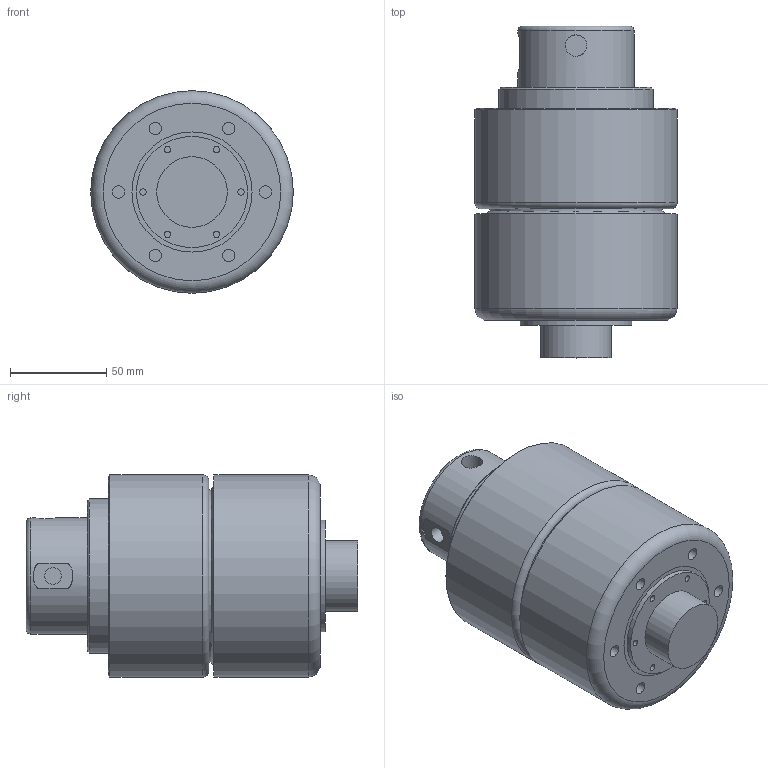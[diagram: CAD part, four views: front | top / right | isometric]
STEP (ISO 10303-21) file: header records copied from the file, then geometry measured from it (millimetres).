
FILE_DESCRIPTION (( 'STEP AP214' ), '1' );
FILE_NAME ('DBA030 TOP MOUNT.STEP', '2013-04-24T14:58:04', ( '' ), ( '' ), 'SwSTEP 2.0', 'SolidWorks 2012', '' );
FILE_SCHEMA (( 'AUTOMOTIVE_DESIGN' ));
Length unit declared in the file: inch
Products named in the file (1): DBA030 TOP MOUNT
Bounding box: 105.08 x 172.11 x 105.08 mm (x, y, z)
Volume: 1102854.4 mm3; surface area: 73482.2 mm2
Topology: 1 solids, 15 shells, 122 faces, 177 edges, 121 vertices
Faces by surface type: plane 66, cylinder 49, cone 4, torus 3
Full cylindrical faces by diameter (mm): 3.251 x18, 6.35 x6, 6.528 x14, 8.611 x1, 11.125 x1, 36.601 x1, 57.658 x1, 60.325 x1, 80.01 x1, 89.332 x1, 104.775 x1, 105.08 x1
Entity records: 3337 total; most frequent: CARTESIAN_POINT 464, DIRECTION 458, AXIS2_PLACEMENT_3D 228, ORIENTED_EDGE 220, EDGE_LOOP 212, FACE_OUTER_BOUND 172, ADVANCED_FACE 122, EDGE_CURVE 110
